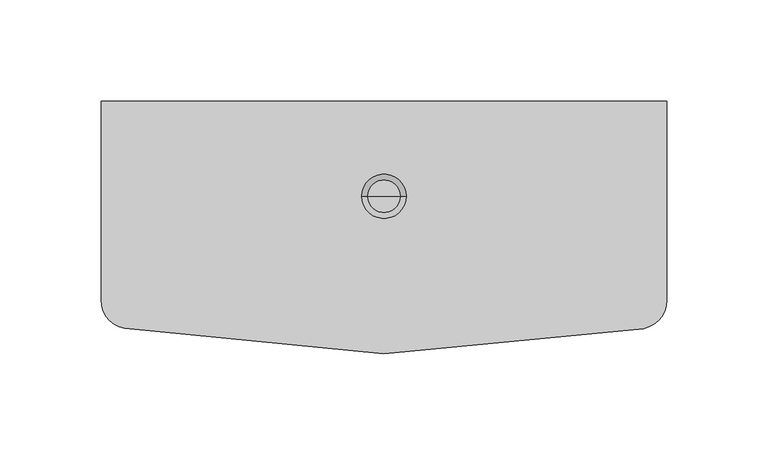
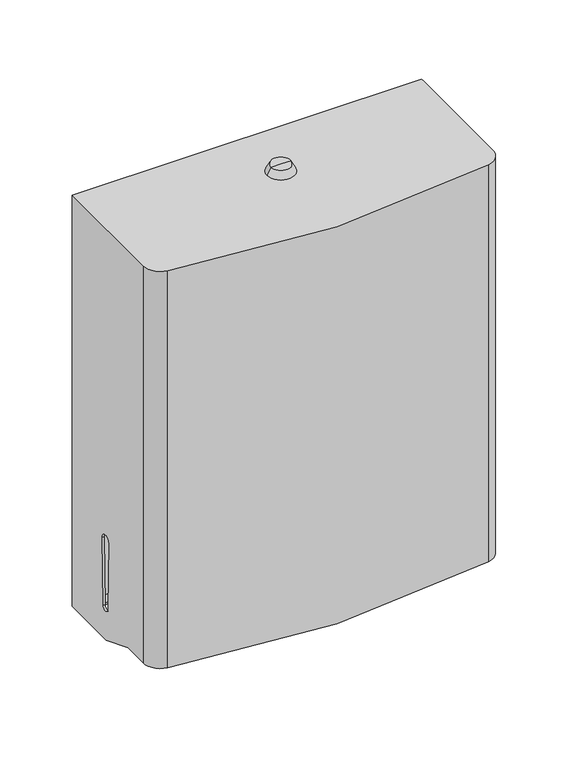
"""IFC4 building model written with IfcOpenShell, lengths in millimetres: proxy geometry, Paper Dispenser_Metlam_Vertical_Rounded : 280w x 125d x 348h (ML725L_AR)."""

import ifcopenshell
import ifcopenshell.guid

model = None  # the IFC model being written
_history = None  # IfcOwnerHistory: only IFC2X3 demands one
_inside = {}  # id of a spatial element -> (the spatial element, [elements in it])
_under = {}  # id of a project, library or spatial element -> (it, [spatial elements below it])
_declared = {}  # id of a project -> (the project, [libraries it declares])
_typed = {}  # id of a type object -> (the type object, [elements of that type])
_made_of = {}  # id of a material, layer set ... -> (it, [elements and type objects made of it])


def new_model(schema):
    """Start an empty IFC model of exactly this schema.

    Asked for "IFC4X3", IfcOpenShell would pick the latest addendum, in which some entities
    have other attributes; the version numbers below select the first issue.
    IFC2X3 requires an IfcOwnerHistory on every rooted entity: one is made here for all.
    """
    global model, _history
    if schema == "IFC4X3":
        model = ifcopenshell.file(schema_version=(4, 3, 0, 0))
    else:
        model = ifcopenshell.file(schema=schema)
    _inside.clear()
    _under.clear()
    _declared.clear()
    _typed.clear()
    _made_of.clear()
    _history = None
    if model.schema == "IFC2X3":
        org = make("IfcOrganization", Name="unknown")
        user = make(
            "IfcPersonAndOrganization",
            ThePerson=make("IfcPerson", FamilyName="unknown"),
            TheOrganization=org,
        )
        app = make(
            "IfcApplication",
            ApplicationDeveloper=org,
            Version="unknown",
            ApplicationFullName="unknown",
            ApplicationIdentifier="unknown",
        )
        _history = make(
            "IfcOwnerHistory",
            OwningUser=user,
            OwningApplication=app,
            ChangeAction="ADDED",
            CreationDate=0,
        )
    return model


def make(cls, **values):
    """One entity of the class cls with the attributes given. An attribute that is None is left unset."""
    return model.create_entity(
        cls, **{name: value for name, value in values.items() if value is not None}
    )


def rooted(cls, **values):
    """An entity with a GlobalId (a new one), such as an element, a storey or a relation."""
    return make(cls, GlobalId=ifcopenshell.guid.new(), OwnerHistory=_history, **values)


def si_unit(unit_type, name, prefix=None):
    """IfcSIUnit, for example si_unit("LENGTHUNIT", "METRE", prefix="MILLI")."""
    return make("IfcSIUnit", UnitType=unit_type, Prefix=prefix, Name=name)


def assignment(units):
    """IfcUnitAssignment: the units of a project."""
    return None if units is None else make("IfcUnitAssignment", Units=units)


def point(xyz):
    """IfcCartesianPoint."""
    return None if xyz is None else make("IfcCartesianPoint", Coordinates=xyz)


def direction(xyz):
    """IfcDirection."""
    return None if xyz is None else make("IfcDirection", DirectionRatios=xyz)


def frame(location, z_axis=None, x_axis=None):
    """IfcAxis2Placement3D, a coordinate frame: its origin and axes. An axis left out is left unset."""
    return make(
        "IfcAxis2Placement3D",
        Location=point(location),
        Axis=direction(z_axis),
        RefDirection=direction(x_axis),
    )


def origin():
    """The frame at (0, 0, 0) with its axes left unset."""
    return frame((0.0, 0.0, 0.0))


def place(relative_to, where):
    """IfcLocalPlacement: puts the frame where relative to a parent placement (None: the world)."""
    return make(
        "IfcLocalPlacement", PlacementRelTo=relative_to, RelativePlacement=where
    )


def context(
    kind, dimensions, precision=None, world=None, true_north=None, identifier=None
):
    """IfcGeometricRepresentationContext, for example the 3D "Model" context."""
    return make(
        "IfcGeometricRepresentationContext",
        ContextIdentifier=identifier,
        ContextType=kind,
        CoordinateSpaceDimension=dimensions,
        Precision=precision,
        WorldCoordinateSystem=world,
        TrueNorth=true_north,
    )


def project(units=None, contexts=None):
    """IfcProject with its units and contexts."""
    return rooted(
        "IfcProject",
        Name="project",
        RepresentationContexts=contexts,
        UnitsInContext=assignment(units),
    )


def spatial(cls, under=None, at=None, **own):
    """A site, building, storey or space (cls), placed at a placement, below another one or the project."""
    s = rooted(cls, ObjectPlacement=at, **own)
    if under is not None:
        _under.setdefault(under.id(), (under, []))[1].append(s)
    return s


def polyline(points):
    """IfcPolyline through the points."""
    return make("IfcPolyline", Points=[point(p) for p in points])


def circle_curve(where, radius):
    """IfcCircle in the frame where."""
    return make("IfcCircle", Position=where, Radius=radius)


def shape(context_of_items, identifier, shape_type, items):
    """IfcShapeRepresentation: the items that make up one representation, for example the "Body"."""
    return make(
        "IfcShapeRepresentation",
        ContextOfItems=context_of_items,
        RepresentationIdentifier=identifier,
        RepresentationType=shape_type,
        Items=items,
    )


def source(mapping_origin, context_of_items, identifier, shape_type, items):
    """IfcRepresentationMap: a shape defined once, which mapped items show again and again."""
    return make(
        "IfcRepresentationMap",
        MappingOrigin=mapping_origin,
        MappedRepresentation=shape(context_of_items, identifier, shape_type, items),
    )


def transform(
    local_origin,
    x_axis=None,
    y_axis=None,
    z_axis=None,
    scale=None,
    scale2=None,
    scale3=None,
    uniform=True,
):
    """IfcCartesianTransformationOperator3D, or its non-uniform kind. x_axis, y_axis, z_axis: its Axis1, 2, 3."""
    if uniform:
        return make(
            "IfcCartesianTransformationOperator3D",
            Axis1=direction(x_axis),
            Axis2=direction(y_axis),
            LocalOrigin=point(local_origin),
            Scale=scale,
            Axis3=direction(z_axis),
        )
    return make(
        "IfcCartesianTransformationOperator3DnonUniform",
        Axis1=direction(x_axis),
        Axis2=direction(y_axis),
        LocalOrigin=point(local_origin),
        Scale=scale,
        Axis3=direction(z_axis),
        Scale2=scale2,
        Scale3=scale3,
    )


def mapped(mapping_source, mapping_target):
    """IfcMappedItem: shows the shape of a source again, moved by a transform."""
    return make(
        "IfcMappedItem", MappingSource=mapping_source, MappingTarget=mapping_target
    )


def made_of(thing, what):
    """Note that an element or type object is made of a material, layer set ...; save() writes the relation."""
    if what is not None:
        _made_of.setdefault(what.id(), (what, []))[1].append(thing)
    return thing


def element(
    cls,
    number,
    at=None,
    inside=None,
    cuts=None,
    type_object=None,
    material=None,
    context=None,
    identifier="Body",
    shape_type=None,
    held_by="IfcProductDefinitionShape",
    body=None,
    shapes=None,
    **own,
):
    """One element of the class cls, such as IfcWall. Its Tag is "e" and its number.

    at: its placement. inside: the storey or other place that contains it. cuts: it is an
    opening in that element (IfcRelVoidsElement). A single representation is given by context,
    identifier, shape_type and body (its items); several are given by shapes. held_by: the class
    of the entity that holds the representations. save() writes the other relations.
    """
    e = rooted(cls, Tag="e%d" % number, ObjectPlacement=at, **own)
    if body is not None:
        shapes = [shape(context, identifier, shape_type, body)]
    if shapes is not None:
        e.Representation = make(held_by, Representations=shapes)
    if inside is not None:
        _inside.setdefault(inside.id(), (inside, []))[1].append(e)
    if cuts is not None:
        rooted(
            "IfcRelVoidsElement", RelatingBuildingElement=cuts, RelatedOpeningElement=e
        )
    if type_object is not None:
        _typed.setdefault(type_object.id(), (type_object, []))[1].append(e)
    return made_of(e, material)


def aggregate(whole, parts):
    """IfcRelAggregates: a whole, such as a stair, and the parts it consists of."""
    return rooted("IfcRelAggregates", RelatingObject=whole, RelatedObjects=parts)


def save(model, path):
    """Write the relations noted so far, then the file.

    IfcRelAggregates (storeys below a building ...), IfcRelContainedInSpatialStructure (elements
    in a storey), IfcRelDefinesByType, IfcRelAssociatesMaterial and IfcRelDeclares: one each for
    every whole, place, type object, material and project.
    """
    for whole, parts in _under.values():
        aggregate(whole, parts)
    for where, things in _inside.values():
        rooted(
            "IfcRelContainedInSpatialStructure",
            RelatedElements=things,
            RelatingStructure=where,
        )
    for kind, things in _typed.values():
        rooted("IfcRelDefinesByType", RelatedObjects=things, RelatingType=kind)
    for what, things in _made_of.values():
        rooted("IfcRelAssociatesMaterial", RelatedObjects=things, RelatingMaterial=what)
    for by, libraries in _declared.values():
        rooted("IfcRelDeclares", RelatingContext=by, RelatedDefinitions=libraries)
    model.write(path)


def plane_surface(at):
    """IfcPlane: the flat surface through the origin of the frame at, square to its z axis."""
    return make("IfcPlane", Position=at)


def cylinder_surface(at, radius):
    """IfcCylindricalSurface: all points at the distance radius from the z axis of the frame at."""
    return make("IfcCylindricalSurface", Position=at, Radius=radius)


def revolved_surface(curve, axis_point, axis_direction):
    """IfcSurfaceOfRevolution: the curve turned about the line through axis_point along axis_direction."""
    return make(
        "IfcSurfaceOfRevolution",
        SweptCurve=make("IfcArbitraryOpenProfileDef", ProfileType="CURVE", Curve=curve),
        AxisPosition=make("IfcAxis1Placement", Location=point(axis_point), Axis=direction(axis_direction)),
    )


def advanced_brep(points, edges, surfaces, faces):
    """IfcAdvancedBrep: a solid bounded by faces that lie on surfaces and meet in shared edges.

    An edge is (start, end): straight between two places in points (the first is 0);
    or (start, end, curve); or (start, end, curve, False) where it runs against its curve.
    A face is (place in surfaces, loops), or (place, loops, False) where it looks against
    its surface's normal. A loop lists edges by number (the first is 1), with a minus sign
    where the edge is run from its end to its start. The first loop is the outer one.
    """
    corners = [point(p) for p in points]
    vertices = [make("IfcVertexPoint", VertexGeometry=c) for c in corners]
    made = []
    for start, end, *more in edges:
        made.append(
            make(
                "IfcEdgeCurve",
                EdgeStart=vertices[start],
                EdgeEnd=vertices[end],
                EdgeGeometry=more[0] if more else make("IfcPolyline", Points=[corners[start], corners[end]]),
                SameSense=more[1] if len(more) > 1 else True,
            )
        )
    hull = []
    for where, loops, *sense in faces:
        bounds = []
        for j, loop in enumerate(loops):
            ring = [make("IfcOrientedEdge", EdgeElement=made[abs(k) - 1], Orientation=k > 0) for k in loop]
            bounds.append(
                make(
                    "IfcFaceOuterBound" if j == 0 else "IfcFaceBound",
                    Bound=make("IfcEdgeLoop", EdgeList=ring),
                    Orientation=True,
                )
            )
        hull.append(make("IfcAdvancedFace", Bounds=bounds, FaceSurface=surfaces[where], SameSense=sense[0] if sense else True))
    return make("IfcAdvancedBrep", Outer=make("IfcClosedShell", CfsFaces=hull))


def specialty_equipment_4fdbc1d0(model_context):
    return source(origin(), model_context, "Body", "AdvancedBrep", [
        advanced_brep(
        [(-0.0073608, -47.1180354, 1348.0), (-11.0073608, -47.1180354, 1348.0), (10.9926392, -47.1180354, 1348.0), (7.9926392, -47.1180354, 1354.0), (-8.0073608, -47.1180354, 1354.0), (-0.0073608, -47.1180354, 1354.0)],
        [
            (0, 1),
            (1, 2, circle_curve(frame((-0.0073608, -47.1180354, 1348.0), z_axis=(0.0, 0.0, -1.0), x_axis=(-1.0, 0.0, 0.0)), 11.0)),
            (2, 0),
            (2, 1, circle_curve(frame((-0.0073608, -47.1180354, 1348.0), z_axis=(0.0, 0.0, -1.0), x_axis=(-1.0, 0.0, 0.0)), 11.0)),
            (3, 4, circle_curve(frame((-0.0073608, -47.1180354, 1354.0), z_axis=(0.0, 0.0, 1.0), x_axis=(-1.0, 0.0, 0.0)), 8.0)),
            (4, 5),
            (5, 3),
            (4, 3, circle_curve(frame((-0.0073608, -47.1180354, 1354.0), z_axis=(0.0, 0.0, 1.0), x_axis=(-1.0, 0.0, 0.0)), 8.0)),
            (1, 4),
            (3, 2),
        ],
        [
            plane_surface(frame((-0.0073608, -47.1180354, 1348.0), z_axis=(0.0, 0.0, -1.0), x_axis=(-1.0, 0.0, 0.0))),
            plane_surface(frame((-0.0073608, -47.1180354, 1354.0), z_axis=(0.0, 0.0, 1.0), x_axis=(-1.0, 0.0, 0.0))),
            revolved_surface(polyline([(-8.0073608, -47.1180354, 1354.0), (-11.0073608, -47.1180354, 1348.0)]), (-0.0073608, -47.1180354, 1348.0), (0.0, 0.0, -1.0)),
        ],
        [
            (0, [[1, 2, 3]]),
            (0, [[-3, 4, -1]]),
            (1, [[5, 6, 7]]),
            (1, [[8, -7, -6]]),
            (2, [[-2, 9, -5, 10]]),
            (2, [[-4, -10, -8, -9]]),
        ],
    ),
        advanced_brep(
        [(140.0, -77.5520943, 1011.9976012), (140.0, -47.2596029, 1000.0), (140.0, -1.6, 1000.0), (140.0, 0.0, 1000.0), (140.0, 0.0, 1348.0), (140.0, -1.6, 1348.0), (140.0, -98.5078984, 1348.0), (140.0, -98.5078984, 1011.9976012), (140.0, -43.1922138, 1027.0338774), (140.0, -49.1726898, 1027.034625), (140.0, -50.6780718, 1083.5736816), (140.0, -41.6726961, 1083.5725559), (138.4, -46.954293, 1001.6), (138.4, -77.2467844, 1013.5976012), (138.4, -88.1415675, 1013.5976012), (138.4, -88.1415675, 1346.4), (138.4, -1.6, 1346.4), (138.4, -1.6, 1001.6), (138.4, -49.1726898, 1027.034625), (138.4, -43.1922138, 1027.0338774), (138.4, -41.6726961, 1083.5725559), (138.4, -50.6780718, 1083.5736816), (-140.0, -77.5520943, 1011.9976012), (-140.0, -47.2596029, 1000.0), (-130.0, -47.2596029, 1000.0), (-130.0, -68.1415675, 1008.2704813), (130.1054529, -68.1415675, 1008.2704813), (130.1054529, -47.2596029, 1000.0), (-140.0, 0.0, 1000.0), (-140.0, 0.0, 1348.0), (-140.0, -1.6, 1348.0), (-140.0, -98.4055757, 1348.0), (-128.3975058, -112.5048177, 1348.0), (128.3997417, -112.5944046, 1348.0), (128.3997417, -112.5944046, 1011.9976012), (-128.3975058, -112.5048177, 1011.9976012), (-140.0, -98.4055757, 1011.9976012), (130.1054529, -10.0, 1000.0), (-130.0, -10.0, 1000.0), (-140.0, -1.6, 1000.0), (-140.0, -49.1726898, 1027.034625), (-138.4, -49.1726898, 1027.034625), (-138.4, -43.1922138, 1027.0338774), (-140.0, -43.1922138, 1027.0338774), (-138.4, -41.6726961, 1083.5725559), (-140.0, -41.6726961, 1083.5725559), (-138.4, -50.6780718, 1083.5736816), (-140.0, -50.6780718, 1083.5736816), (-138.4, -88.1415675, 1013.5976012), (-138.4, -88.1415675, 1346.4), (-138.4, -1.6, 1346.4), (-130.0, -10.0, 1001.6), (130.1054529, -10.0, 1001.6), (130.1054529, -46.954293, 1001.6), (-138.4, -1.6, 1001.6), (-138.4, -46.954293, 1001.6), (-130.0, -46.954293, 1001.6), (130.1054529, -68.1415675, 1009.9914019), (-130.0, -68.1415675, 1009.9914019), (-138.4, -77.2467844, 1013.5976012)],
        [
            (0, 1),
            (1, 2),
            (2, 3),
            (3, 4),
            (4, 5),
            (5, 6),
            (6, 7),
            (7, 0),
            (8, 9, circle_curve(frame((140.0, -46.1824418, 1027.1142419), z_axis=(-1.0, 0.0, 0.0), x_axis=(0.0, 1.0, 0.0)), 2.9913077)),
            (9, 10),
            (10, 11, circle_curve(frame((140.0, -46.1753689, 1083.6935685), z_axis=(-1.0, 0.0, 0.0), x_axis=(0.0, 1.0, 0.0)), 4.5042987)),
            (11, 8),
            (12, 13),
            (13, 14),
            (14, 15),
            (15, 16),
            (16, 17),
            (17, 12),
            (18, 19, circle_curve(frame((138.4, -46.1824418, 1027.1142419), z_axis=(1.0, 0.0, 0.0), x_axis=(0.0, 1.0, 0.0)), 2.9913077)),
            (19, 20),
            (20, 21, circle_curve(frame((138.4, -46.1753689, 1083.6935685), z_axis=(1.0, 0.0, 0.0), x_axis=(0.0, 1.0, 0.0)), 4.5042987)),
            (21, 18),
            (0, 22),
            (22, 23),
            (23, 24),
            (24, 25),
            (25, 26),
            (26, 27),
            (27, 1),
            (3, 28),
            (28, 29),
            (29, 4),
            (29, 30),
            (30, 31),
            (31, 32, circle_curve(frame((-125.6321197, -98.4055757, 1348.0), z_axis=(0.0, 0.0, 1.0), x_axis=(-1.0, 0.0, 0.0)), 14.3678803)),
            (32, 33, circle_curve(frame((0.2299188, 543.2984489, 1348.0), z_axis=(0.0, 0.0, 1.0), x_axis=(-1.0, 0.0, 0.0)), 668.2985402)),
            (33, 6, circle_curve(frame((125.6470588, -98.5078984, 1348.0), z_axis=(0.0, 0.0, 1.0), x_axis=(-1.0, 0.0, 0.0)), 14.3529412)),
            (7, 34, circle_curve(frame((125.6470588, -98.5078984, 1011.9976012), z_axis=(0.0, 0.0, -1.0), x_axis=(-1.0, 0.0, 0.0)), 14.3529412)),
            (34, 35, circle_curve(frame((0.2299188, 543.2984489, 1011.9976012), z_axis=(0.0, 0.0, -1.0), x_axis=(-1.0, 0.0, 0.0)), 668.2985402)),
            (35, 36, circle_curve(frame((-125.6321197, -98.4055757, 1011.9976012), z_axis=(0.0, 0.0, -1.0), x_axis=(-1.0, 0.0, 0.0)), 14.3678803)),
            (36, 22),
            (37, 38),
            (38, 24),
            (23, 39),
            (39, 28),
            (27, 37),
            (18, 9),
            (8, 19),
            (40, 41),
            (41, 42, circle_curve(frame((-138.4, -46.1824418, 1027.1142419), z_axis=(1.0, 0.0, 0.0), x_axis=(0.0, 1.0, 0.0)), 2.9913077)),
            (42, 43),
            (43, 40, circle_curve(frame((-140.0, -46.1824418, 1027.1142419), z_axis=(-1.0, 0.0, 0.0), x_axis=(0.0, 1.0, 0.0)), 2.9913077)),
            (11, 20),
            (42, 44),
            (44, 45),
            (45, 43),
            (10, 21),
            (44, 46, circle_curve(frame((-138.4, -46.1753689, 1083.6935685), z_axis=(1.0, 0.0, 0.0), x_axis=(0.0, 1.0, 0.0)), 4.5042987)),
            (46, 47),
            (47, 45, circle_curve(frame((-140.0, -46.1753689, 1083.6935685), z_axis=(-1.0, 0.0, 0.0), x_axis=(0.0, 1.0, 0.0)), 4.5042987)),
            (40, 47),
            (46, 41),
            (32, 35),
            (34, 33),
            (14, 48),
            (48, 49),
            (49, 15),
            (49, 50),
            (50, 16),
            (51, 52),
            (52, 53),
            (53, 12),
            (17, 54),
            (54, 55),
            (55, 56),
            (56, 51),
            (53, 57),
            (57, 58),
            (58, 56),
            (55, 59),
            (59, 13),
            (59, 48),
            (51, 38),
            (37, 52),
            (26, 57),
            (25, 58),
            (50, 54),
            (36, 31),
        ],
        [
            plane_surface(frame((140.0, -47.2596029, 1000.0), z_axis=(1.0000000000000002, 0.0, 0.0), x_axis=(0.0, 0.9297349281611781, -0.3682294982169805))),
            plane_surface(frame((138.4, -47.2596029, 1000.0), z_axis=(-1.0000000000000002, 0.0, 0.0), x_axis=(0.0, -0.9297349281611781, 0.3682294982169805))),
            plane_surface(frame((140.0, -77.5520943, 1011.9976012), z_axis=(0.0, -0.3682294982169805, -0.9297349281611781), x_axis=(-1.0, 0.0, 0.0))),
            plane_surface(frame((140.0, 0.0, 1000.0), z_axis=(0.0, 1.0, 0.0), x_axis=(-1.0, 0.0, 0.0))),
            plane_surface(frame((140.0, 0.0, 1348.0), z_axis=(0.0, 0.0, 1.0), x_axis=(-1.0, 0.0, 0.0))),
            plane_surface(frame((140.0, -88.1415675, 1011.9976012), z_axis=(0.0, 0.0, -1.0), x_axis=(-1.0, 0.0, 0.0))),
            plane_surface(frame((140.0, -47.2596029, 1000.0), z_axis=(0.0, 0.0, -1.0), x_axis=(-1.0, 0.0, 0.0))),
            revolved_surface(polyline([(140.0, -43.1911341, 1027.1142419), (138.39999999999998, -43.1911341, 1027.1142419)]), (-140.0, -46.1824418, 1027.1142419), (1.0, 0.0, 0.0)),
            revolved_surface(polyline([(-138.4, -43.1911341, 1027.1142419), (-140.0, -43.1911341, 1027.1142419)]), (-140.0, -46.1824418, 1027.1142419), (1.0, 0.0, 0.0)),
            plane_surface(frame((140.0, -43.1922138, 1027.0338774), z_axis=(0.0, -0.9996390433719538, 0.026866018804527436), x_axis=(-1.0, 0.0, 0.0))),
            revolved_surface(polyline([(140.0, -41.6710702, 1083.6935685), (138.39999999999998, -41.6710702, 1083.6935685)]), (-140.0, -46.1753689, 1083.6935685), (1.0, 0.0, 0.0)),
            revolved_surface(polyline([(-138.4, -41.6710702, 1083.6935685), (-140.0, -41.6710702, 1083.6935685)]), (-140.0, -46.1753689, 1083.6935685), (1.0, 0.0, 0.0)),
            plane_surface(frame((140.0, -50.6780718, 1083.5736816), z_axis=(0.0, 0.9996457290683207, 0.02661609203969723), x_axis=(-1.0, 0.0, 0.0))),
            cylinder_surface(frame((0.2299188, 543.2984489, 1011.9976012), z_axis=(0.0, 0.0, 1.0), x_axis=(-1.0, 0.0, 0.0)), 668.2985402),
            cylinder_surface(frame((125.6470588, -98.5078984, 1011.9976012), z_axis=(0.0, 0.0, 1.0), x_axis=(-1.0, 0.0, 0.0)), 14.3529412),
            plane_surface(frame((140.0, -88.1415675, 1348.0), z_axis=(0.0, 1.0, 0.0), x_axis=(0.0, 0.0, -1.0))),
            plane_surface(frame((140.0, -88.1415675, 1346.4), z_axis=(0.0, 0.0, -1.0), x_axis=(-1.0, 0.0, 0.0))),
            plane_surface(frame((140.0, 0.0, 1001.6), z_axis=(0.0, 0.0, 1.0), x_axis=(-1.0, 0.0, 0.0))),
            plane_surface(frame((140.0, -46.954293, 1001.6), z_axis=(0.0, 0.3682294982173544, 0.9297349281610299), x_axis=(-1.0, 0.0, 0.0))),
            plane_surface(frame((140.0, -77.2467844, 1013.5976012), z_axis=(0.0, 0.0, 1.0), x_axis=(-1.0, 0.0, 0.0))),
            plane_surface(frame((-130.0, -10.0, 1000.0), z_axis=(0.0, -1.0, 0.0), x_axis=(0.0, 0.0, 1.0))),
            plane_surface(frame((130.1054529, -10.0, 1000.0), z_axis=(-1.0, 0.0, 0.0), x_axis=(0.0, 0.0, 1.0))),
            plane_surface(frame((130.1054529, -68.1415675, 1000.0), z_axis=(0.0, 1.0, 0.0), x_axis=(0.0, 0.0, 1.0))),
            plane_surface(frame((-130.0, -68.1415675, 1000.0), z_axis=(1.0, 0.0, 0.0), x_axis=(0.0, 0.0, 1.0))),
            plane_surface(frame((-140.0, -1.6, 1348.0), z_axis=(0.0, -1.0, 0.0), x_axis=(0.0, 0.0, -1.0))),
            plane_surface(frame((-140.0, -77.5520943, 1011.9976012), z_axis=(-1.0, 0.0, 0.0), x_axis=(0.0, -1.0, 0.0))),
            plane_surface(frame((-138.4, -77.5520943, 1011.9976012), z_axis=(1.0, 0.0, 0.0), x_axis=(0.0, 1.0, 0.0))),
            cylinder_surface(frame((-125.6321197, -98.4055757, 1011.9976012), z_axis=(0.0, 0.0, 1.0), x_axis=(-1.0, 0.0, 0.0)), 14.3678803),
        ],
        [
            (0, [[1, 2, 3, 4, 5, 6, 7, 8], [9, 10, 11, 12]]),
            (1, [[13, 14, 15, 16, 17, 18], [19, 20, 21, 22]]),
            (2, [[-1, 23, 24, 25, 26, 27, 28, 29]]),
            (3, [[30, 31, 32, -4]]),
            (4, [[-32, 33, 34, 35, 36, 37, -6, -5]]),
            (5, [[-23, -8, 38, 39, 40, 41]]),
            (6, [[42, 43, -25, 44, 45, -30, -3, -2, -29, 46]]),
            (7, [[47, -9, 48, -19]]),
            (8, [[49, 50, 51, 52]]),
            (9, [[-48, -12, 53, -20]]),
            (9, [[-51, 54, 55, 56]]),
            (10, [[-53, -11, 57, -21]]),
            (11, [[-55, 58, 59, 60]]),
            (12, [[-47, -22, -57, -10]]),
            (12, [[-49, 61, -59, 62]]),
            (13, [[-36, 63, -39, 64]]),
            (14, [[-37, -64, -38, -7]]),
            (15, [[-15, 65, 66, 67]]),
            (16, [[-67, 68, 69, -16]]),
            (17, [[70, 71, 72, -18, 73, 74, 75, 76]]),
            (18, [[77, 78, 79, -75, 80, 81, -13, -72]]),
            (19, [[-81, 82, -65, -14]]),
            (20, [[83, -42, 84, -70]]),
            (21, [[-84, -46, -28, 85, -77, -71]]),
            (22, [[-85, -27, 86, -78]]),
            (23, [[-83, -76, -79, -86, -26, -43]]),
            (24, [[-17, -69, 87, -73]]),
            (25, [[-24, -41, 88, -34, -33, -31, -45, -44], [-52, -56, -60, -61]]),
            (26, [[-80, -74, -87, -68, -66, -82], [-50, -62, -58, -54]]),
            (27, [[-35, -88, -40, -63]]),
        ],
    ),
    ])


if __name__ == "__main__":
    model = new_model("IFC4")
    model_context = context("Model", 3, world=origin())
    ifc_project = project(units=[si_unit("LENGTHUNIT", "METRE", prefix="MILLI")], contexts=[model_context])
    site = spatial("IfcSite", under=ifc_project)
    building = spatial("IfcBuilding", under=site)
    placement = place(None, origin())
    specialty_equipment_shape = specialty_equipment_4fdbc1d0(model_context)
    element("IfcBuildingElementProxy", 1, Name="Paper Dispenser_Metlam_Vertical_Rounded : 280w x 125d x 348h (ML725L_AR)", ObjectType="Paper Dispenser_Metlam_Vertical_Rounded : 280w x 125d x 348h (ML725L_AR)", at=placement, inside=building, context=model_context, shape_type="MappedRepresentation", body=[
        mapped(specialty_equipment_shape, transform((0.0, 0.0, 0.0), x_axis=(1.0, 0.0, 0.0), y_axis=(0.0, 1.0, 0.0), z_axis=(0.0, 0.0, 1.0))),
    ])
    save(model, "model.ifc")
